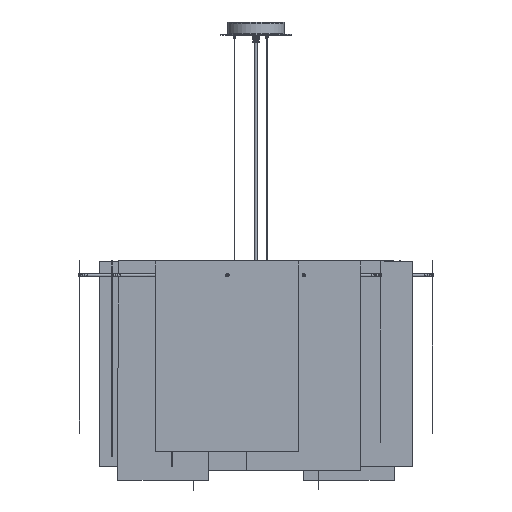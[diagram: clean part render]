
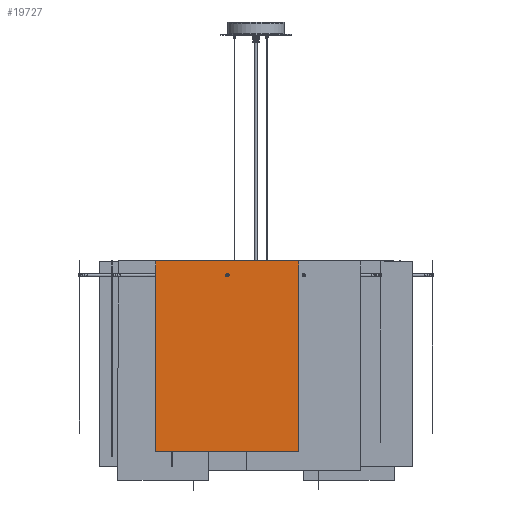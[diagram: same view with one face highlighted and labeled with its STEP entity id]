
A CAD part, left-side view. The second image highlights one B-rep face of the part: STEP entity #19727.
In plain terms, the highlighted planar face has unit normal (-1, 0, 0) as drawn and (0, 0, -1) by its records, which use the part's own axes.
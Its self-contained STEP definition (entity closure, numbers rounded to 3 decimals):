
#19577=CARTESIAN_POINT('',(2.5,370.0,0.0));
#19578=VERTEX_POINT('',#19577);
#19579=CARTESIAN_POINT('',(0.,370.0,0.0));
#19580=DIRECTION('',(0.0,0.0,1.0));
#19581=DIRECTION('',(-1.0,0.0,0.0));
#19582=AXIS2_PLACEMENT_3D('',#19579,#19580,#19581);
#19583=CIRCLE('',#19582,2.5);
#19584=EDGE_CURVE('',#19578,#19578,#19583,.T.);
#19604=CARTESIAN_POINT('',(-150.,400.0,0.0));
#19605=VERTEX_POINT('',#19604);
#19612=CARTESIAN_POINT('',(-150.0,0.0,0.0));
#19613=VERTEX_POINT('',#19612);
#19614=CARTESIAN_POINT('',(-150.,400.0,0.0));
#19615=DIRECTION('',(0.0,-1.0,0.0));
#19616=VECTOR('',#19615,400.0);
#19617=LINE('',#19614,#19616);
#19618=EDGE_CURVE('',#19605,#19613,#19617,.T.);
#19642=CARTESIAN_POINT('',(150.,400.,0.0));
#19643=VERTEX_POINT('',#19642);
#19650=CARTESIAN_POINT('',(150.,400.,0.0));
#19651=DIRECTION('',(-1.0,0.0,0.0));
#19652=VECTOR('',#19651,300.);
#19653=LINE('',#19650,#19652);
#19654=EDGE_CURVE('',#19643,#19605,#19653,.T.);
#19673=CARTESIAN_POINT('',(150.0,0.,0.0));
#19674=VERTEX_POINT('',#19673);
#19681=CARTESIAN_POINT('',(150.0,0.,0.0));
#19682=DIRECTION('',(0.0,1.0,0.0));
#19683=VECTOR('',#19682,400.0);
#19684=LINE('',#19681,#19683);
#19685=EDGE_CURVE('',#19674,#19643,#19684,.T.);
#19703=CARTESIAN_POINT('',(-150.0,0.0,0.0));
#19704=DIRECTION('',(1.0,0.0,0.0));
#19705=VECTOR('',#19704,300.0);
#19706=LINE('',#19703,#19705);
#19707=EDGE_CURVE('',#19613,#19674,#19706,.T.);
#19713=CARTESIAN_POINT('',(0.,200.0,0.0));
#19714=DIRECTION('',(0.0,0.0,1.0));
#19715=DIRECTION('',(1.0,0.0,0.0));
#19716=AXIS2_PLACEMENT_3D('',#19713,#19714,#19715);
#19717=PLANE('',#19716);
#19718=ORIENTED_EDGE('',*,*,#19707,.F.);
#19719=ORIENTED_EDGE('',*,*,#19618,.F.);
#19720=ORIENTED_EDGE('',*,*,#19654,.F.);
#19721=ORIENTED_EDGE('',*,*,#19685,.F.);
#19722=EDGE_LOOP('',(#19718,#19719,#19720,#19721));
#19723=FACE_OUTER_BOUND('',#19722,.T.);
#19724=ORIENTED_EDGE('',*,*,#19584,.T.);
#19725=EDGE_LOOP('',(#19724));
#19726=FACE_BOUND('',#19725,.T.);
#19727=ADVANCED_FACE('',(#19723,#19726),#19717,.F.);
